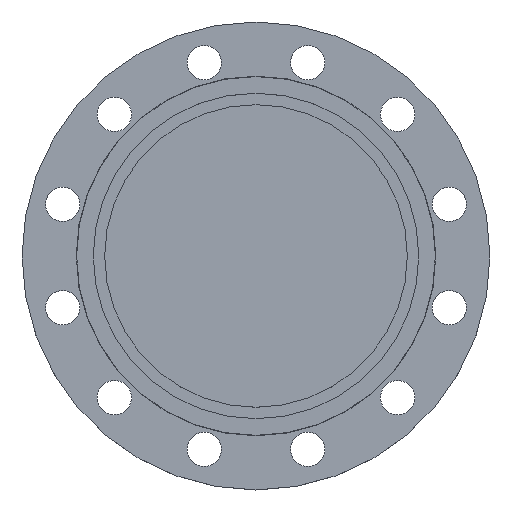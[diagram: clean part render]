
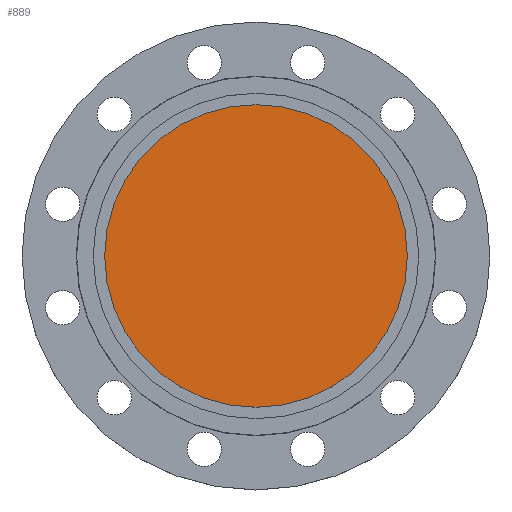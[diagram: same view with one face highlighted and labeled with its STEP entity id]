
A CAD part, top view. The second image highlights one B-rep face of the part: STEP entity #889.
In plain terms, the highlighted planar face has unit normal (0, 0, 1).
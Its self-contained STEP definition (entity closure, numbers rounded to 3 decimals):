
#6 = AXIS2_PLACEMENT_3D ( 'NONE', #517, #516, #514 ) ;
#8 = CIRCLE ( 'NONE', #6, 145.5 ) ;
#33 = CIRCLE ( 'NONE', #37, 145.5 ) ;
#37 = AXIS2_PLACEMENT_3D ( 'NONE', #648, #647, #646 ) ;
#165 = CARTESIAN_POINT ( 'NONE',  ( 145.5, 0., 0. ) ) ;
#262 = AXIS2_PLACEMENT_3D ( 'NONE', #302, #301, #299 ) ;
#299 = DIRECTION ( 'NONE',  ( 1., 0., 0. ) ) ;
#301 = DIRECTION ( 'NONE',  ( 0., 0., 1. ) ) ;
#302 = CARTESIAN_POINT ( 'NONE',  ( 0., 0., 0. ) ) ;
#305 = PLANE ( 'NONE',  #262 ) ;
#306 = FACE_OUTER_BOUND ( 'NONE', #956, .T. ) ;
#363 = EDGE_CURVE ( 'NONE', #1291, #1106, #33, .T. ) ;
#514 = DIRECTION ( 'NONE',  ( -1., 0., 0. ) ) ;
#516 = DIRECTION ( 'NONE',  ( 0., 0., -1. ) ) ;
#517 = CARTESIAN_POINT ( 'NONE',  ( 0., 0., 0. ) ) ;
#548 = EDGE_CURVE ( 'NONE', #1106, #1291, #8, .T. ) ;
#646 = DIRECTION ( 'NONE',  ( -1., 0., 0. ) ) ;
#647 = DIRECTION ( 'NONE',  ( 0., 0., -1. ) ) ;
#648 = CARTESIAN_POINT ( 'NONE',  ( 0., 0., 0. ) ) ;
#889 = ADVANCED_FACE ( 'NONE', ( #306 ), #305, .T. ) ;
#956 = EDGE_LOOP ( 'NONE', ( #1008, #1009 ) ) ;
#1008 = ORIENTED_EDGE ( 'NONE', *, *, #363, .F. ) ;
#1009 = ORIENTED_EDGE ( 'NONE', *, *, #548, .F. ) ;
#1106 = VERTEX_POINT ( 'NONE', #165 ) ;
#1196 = CARTESIAN_POINT ( 'NONE',  ( -145.5, 0., 0. ) ) ;
#1291 = VERTEX_POINT ( 'NONE', #1196 ) ;
